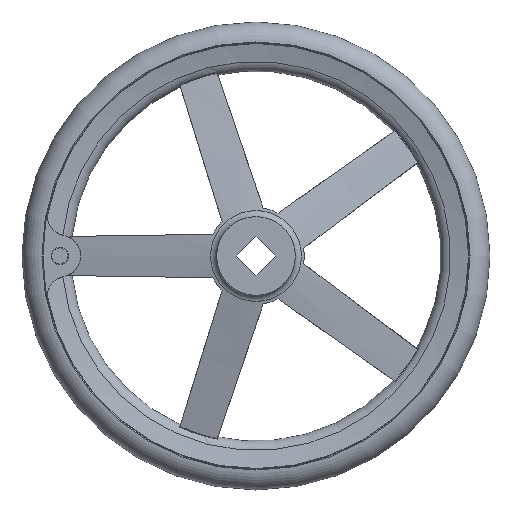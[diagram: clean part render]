
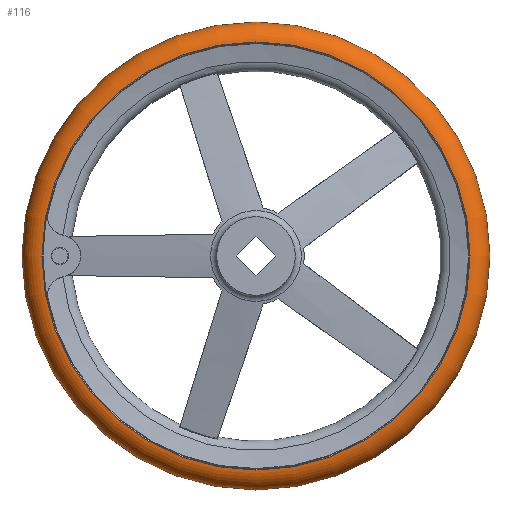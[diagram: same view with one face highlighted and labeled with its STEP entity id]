
A CAD part, left-side view. The second image highlights one B-rep face of the part: STEP entity #116.
In plain terms, the highlighted toroidal (fillet/blend) face has major radius 143.487 mm and minor radius 14.013 mm.
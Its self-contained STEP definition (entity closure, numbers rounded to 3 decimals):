
#116 = ADVANCED_FACE( '', ( #240, #241, #242 ), #243, .T. );
#240 = FACE_BOUND( '', #396, .T. );
#241 = FACE_OUTER_BOUND( '', #397, .T. );
#242 = FACE_OUTER_BOUND( '', #398, .T. );
#243 = TOROIDAL_SURFACE( '', #399, 143.487, 14.013 );
#396 = VERTEX_LOOP( '', #846 );
#397 = EDGE_LOOP( '', ( #847 ) );
#398 = EDGE_LOOP( '', ( #848 ) );
#399 = AXIS2_PLACEMENT_3D( '', #849, #850, #851 );
#846 = VERTEX_POINT( '', #1152 );
#847 = ORIENTED_EDGE( '', *, *, #1153, .T. );
#848 = ORIENTED_EDGE( '', *, *, #1069, .F. );
#849 = CARTESIAN_POINT( '', ( 42., 0., 0. ) );
#850 = DIRECTION( '', ( 1., 0., 0. ) );
#851 = DIRECTION( '', ( 0., 1., 0. ) );
#1069 = EDGE_CURVE( '', #1290, #1290, #1291, .T. );
#1152 = CARTESIAN_POINT( '', ( 42., 157.5, 0. ) );
#1153 = EDGE_CURVE( '', #1424, #1424, #1425, .T. );
#1290 = VERTEX_POINT( '', #1859 );
#1291 = CIRCLE( '', #1860, 144.083 );
#1424 = VERTEX_POINT( '', #2371 );
#1425 = CIRCLE( '', #2372, 144.083 );
#1859 = CARTESIAN_POINT( '', ( 56., 144.083, 0. ) );
#1860 = AXIS2_PLACEMENT_3D( '', #2540, #2541, #2542 );
#2371 = CARTESIAN_POINT( '', ( 28., 144.083, 0. ) );
#2372 = AXIS2_PLACEMENT_3D( '', #2637, #2638, #2639 );
#2540 = CARTESIAN_POINT( '', ( 56., 0., 0. ) );
#2541 = DIRECTION( '', ( 1., 0., 0. ) );
#2542 = DIRECTION( '', ( 0., 1., 0. ) );
#2637 = CARTESIAN_POINT( '', ( 28., 0., 0. ) );
#2638 = DIRECTION( '', ( 1., 0., 0. ) );
#2639 = DIRECTION( '', ( 0., 1., 0. ) );
